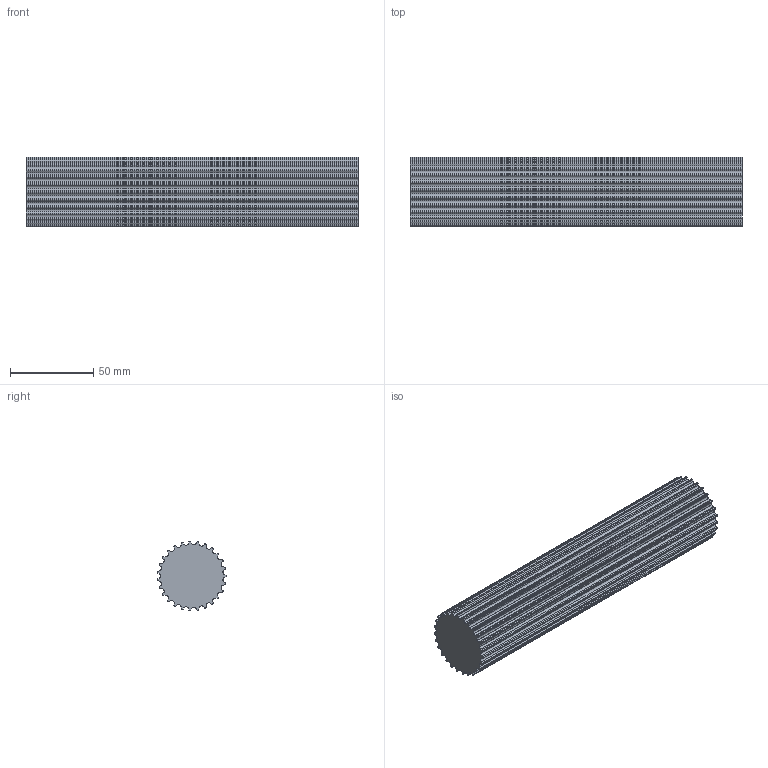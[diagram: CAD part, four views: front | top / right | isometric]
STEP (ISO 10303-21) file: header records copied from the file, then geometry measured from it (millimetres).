
FILE_DESCRIPTION( ( 'STEP AP214' ), '1' );
FILE_NAME( 'C:/Users/StangenbergN/Desktop/Steps Zahnriemenräder/K166_HTD-Zahnwellen/17292700.stp', '2019-06-06T09:41:37', ( '' ), ( '' ), ' ', 'PARTsolutions', ' ' );
FILE_SCHEMA( ( 'AUTOMOTIVE_DESIGN { 1 0 10303 214 1 1 1 1 }' ) );
Length unit declared in the file: millimetre
Products named in the file (1): _17292700
Bounding box: 200 x 41.71 x 41.78 mm (x, y, z)
Volume: 243913.8 mm3; surface area: 38907.9 mm2
Topology: 1 solids, 1 shells, 218 faces, 648 edges, 432 vertices
Faces by surface type: cylinder 135, plane 83
Entity records: 9182 total; most frequent: DIRECTION 1356, CARTESIAN_POINT 1299, ORIENTED_EDGE 1296, EDGE_CURVE 648, AXIS2_PLACEMENT_3D 489, VERTEX_POINT 432, LINE 378, VECTOR 378
